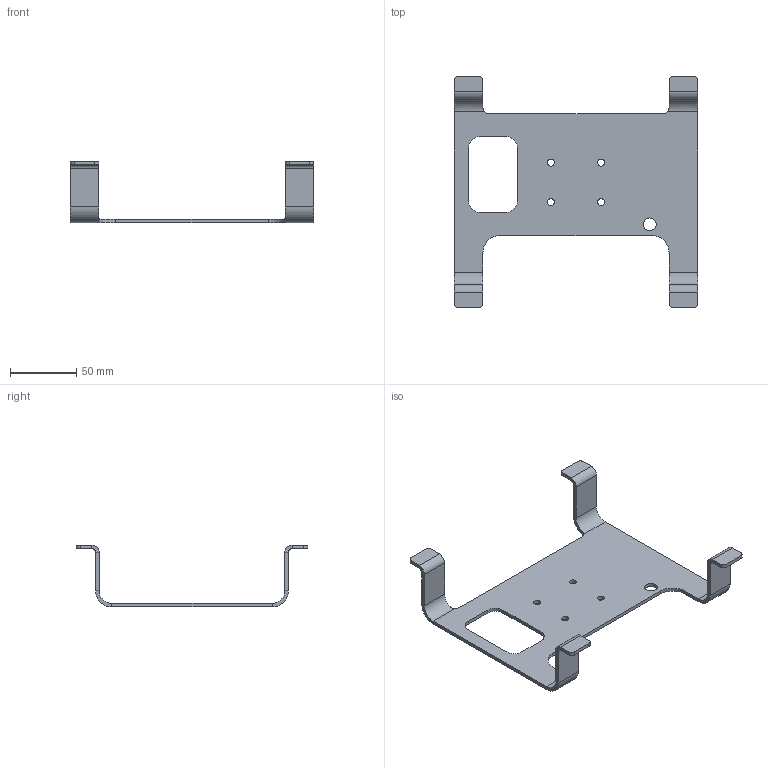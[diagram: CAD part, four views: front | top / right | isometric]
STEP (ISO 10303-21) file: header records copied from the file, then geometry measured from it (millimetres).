
FILE_DESCRIPTION (( 'STEP AP203' ), '1' );
FILE_NAME ('CL-711-520.STEP', '2016-12-16T23:03:25', ( '' ), ( '' ), 'SwSTEP 2.0', 'SolidWorks 2016', '' );
FILE_SCHEMA (( 'CONFIG_CONTROL_DESIGN' ));
Length unit declared in the file: inch
Products named in the file (1): CL-711-520
Bounding box: 184.15 x 175.14 x 46.92 mm (x, y, z)
Volume: 60252.4 mm3; surface area: 47342 mm2
Topology: 1 solids, 1 shells, 106 faces, 252 edges, 148 vertices
Faces by surface type: plane 64, cylinder 42
Entity records: 3131 total; most frequent: DIRECTION 546, CARTESIAN_POINT 543, ORIENTED_EDGE 504, EDGE_CURVE 252, AXIS2_PLACEMENT_3D 191, VECTOR 164, LINE 164, VERTEX_POINT 148
